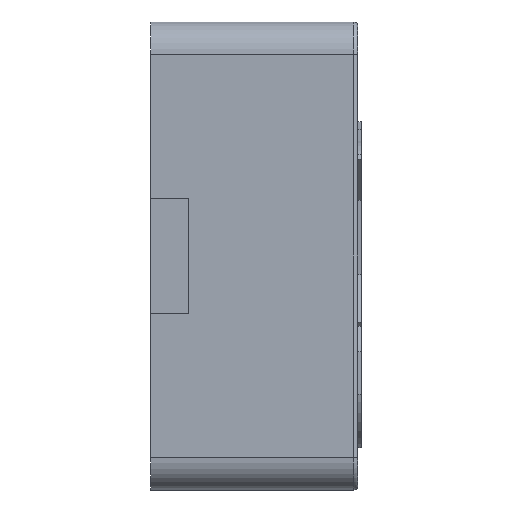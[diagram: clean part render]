
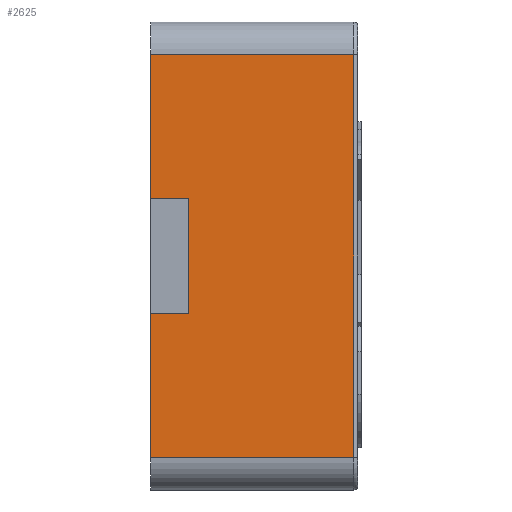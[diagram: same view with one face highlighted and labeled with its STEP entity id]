
A CAD part, left-side view. The second image highlights one B-rep face of the part: STEP entity #2625.
In plain terms, the highlighted planar face has unit normal (-1, 0, 0).
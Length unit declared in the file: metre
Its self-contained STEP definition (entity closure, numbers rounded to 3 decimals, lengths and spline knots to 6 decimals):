
#625=ORIENTED_EDGE('',*,*,#842,.F.);
#626=ORIENTED_EDGE('',*,*,#847,.F.);
#627=ORIENTED_EDGE('',*,*,#1158,.T.);
#628=ORIENTED_EDGE('',*,*,#1173,.F.);
#629=ORIENTED_EDGE('',*,*,#867,.T.);
#630=ORIENTED_EDGE('',*,*,#1174,.T.);
#631=ORIENTED_EDGE('',*,*,#1159,.T.);
#632=ORIENTED_EDGE('',*,*,#845,.F.);
#842=EDGE_CURVE('',#1206,#1207,#1450,.T.);
#845=EDGE_CURVE('',#1207,#1208,#1453,.T.);
#847=EDGE_CURVE('',#1209,#1206,#1455,.T.);
#867=EDGE_CURVE('',#1222,#1218,#1462,.T.);
#1158=EDGE_CURVE('',#1209,#1432,#1713,.T.);
#1159=EDGE_CURVE('',#1433,#1208,#1714,.T.);
#1173=EDGE_CURVE('',#1222,#1432,#1724,.T.);
#1174=EDGE_CURVE('',#1218,#1433,#1725,.T.);
#1206=VERTEX_POINT('',#3583);
#1207=VERTEX_POINT('',#3584);
#1208=VERTEX_POINT('',#3589);
#1209=VERTEX_POINT('',#3593);
#1218=VERTEX_POINT('',#3618);
#1222=VERTEX_POINT('',#3630);
#1432=VERTEX_POINT('',#4562);
#1433=VERTEX_POINT('',#4564);
#1450=LINE('',#3582,#1750);
#1453=LINE('',#3588,#1753);
#1455=LINE('',#3592,#1755);
#1462=LINE('',#3633,#1762);
#1713=LINE('',#4561,#2013);
#1714=LINE('',#4563,#2014);
#1724=LINE('',#4590,#2024);
#1725=LINE('',#4592,#2025);
#1750=VECTOR('',#2883,1.);
#1753=VECTOR('',#2888,1.);
#1755=VECTOR('',#2892,1.);
#1762=VECTOR('',#2937,1.);
#2013=VECTOR('',#3430,1.);
#2014=VECTOR('',#3431,1.);
#2024=VECTOR('',#3461,1.);
#2025=VECTOR('',#3464,1.);
#2169=EDGE_LOOP('',(#625,#626,#627,#628,#629,#630,#631,#632));
#2345=FACE_BOUND('',#2169,.T.);
#2487=PLANE('',#2829);
#2625=ADVANCED_FACE('',(#2345),#2487,.F.);
#2829=AXIS2_PLACEMENT_3D('',#4591,#3462,#3463);
#2883=DIRECTION('',(0.,0.,1.));
#2888=DIRECTION('',(0.,1.,0.));
#2892=DIRECTION('',(0.,-1.,0.));
#2937=DIRECTION('',(0.,0.,1.));
#3430=DIRECTION('',(0.,0.,-1.));
#3431=DIRECTION('',(0.,0.,-1.));
#3461=DIRECTION('',(0.,1.,0.));
#3462=DIRECTION('',(1.,0.,0.));
#3463=DIRECTION('',(0.,0.,-1.));
#3464=DIRECTION('',(0.,1.,0.));
#3582=CARTESIAN_POINT('',(-0.01125,-0.00615,0.0015));
#3583=CARTESIAN_POINT('',(-0.01125,-0.00615,-0.0015));
#3584=CARTESIAN_POINT('',(-0.01125,-0.00615,0.0015));
#3588=CARTESIAN_POINT('',(-0.01125,-0.00615,0.0015));
#3589=CARTESIAN_POINT('',(-0.01125,-0.00515,0.0015));
#3592=CARTESIAN_POINT('',(-0.01125,-0.00615,-0.0015));
#3593=CARTESIAN_POINT('',(-0.01125,-0.00515,-0.0015));
#3618=CARTESIAN_POINT('',(-0.01125,-0.01045,0.00525));
#3630=CARTESIAN_POINT('',(-0.01125,-0.01045,-0.00525));
#3633=CARTESIAN_POINT('',(-0.01125,-0.01045,0.00525));
#4561=CARTESIAN_POINT('',(-0.01125,-0.00515,0.00525));
#4562=CARTESIAN_POINT('',(-0.01125,-0.00515,-0.00525));
#4563=CARTESIAN_POINT('',(-0.01125,-0.00515,0.00525));
#4564=CARTESIAN_POINT('',(-0.01125,-0.00515,0.00525));
#4590=CARTESIAN_POINT('',(-0.01125,-0.01055,-0.00525));
#4591=CARTESIAN_POINT('',(-0.01125,-0.01055,0.00525));
#4592=CARTESIAN_POINT('',(-0.01125,-0.01055,0.00525));
